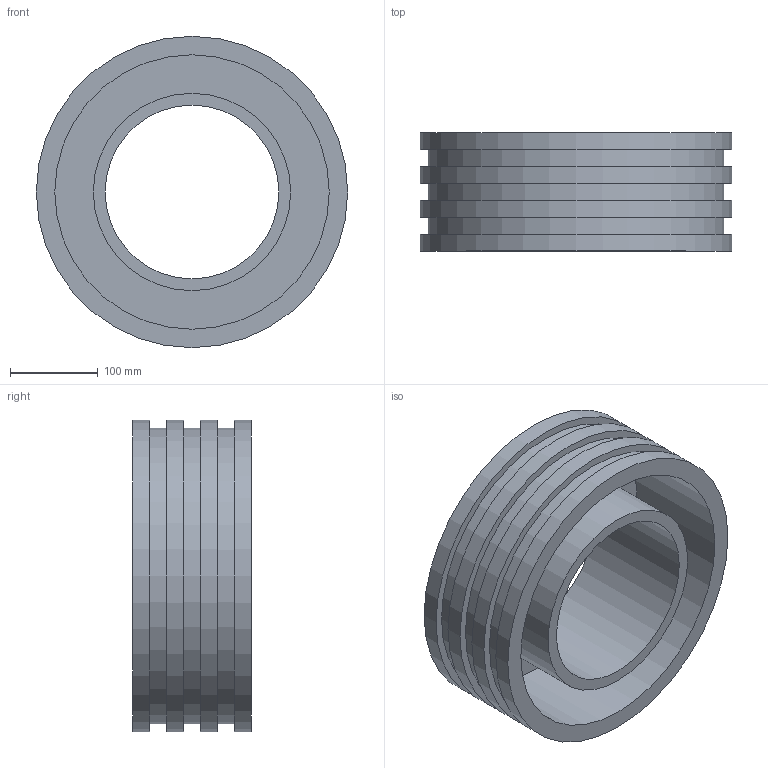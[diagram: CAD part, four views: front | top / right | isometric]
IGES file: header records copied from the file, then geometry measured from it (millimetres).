
Global section: file name: 477207225.ipt; native system: Autodesk Inventor 2015; preprocessor: unknown; author: Кирилл,,11,0; organization: 20170830.190241; date: 20171106.093325; units: millimetre
Bounding box: 355 x 135 x 355 mm (x, y, z)
Volume: 3985903.8 mm3; surface area: 637466.3 mm2
Topology: 1 solids, 1 shells, 20 faces, 34 edges, 24 vertices
Faces by surface type: plane 10, cylinder 8, revolution 2
Full cylindrical faces by diameter (mm): 225 x1, 337.25 x3, 355 x4
